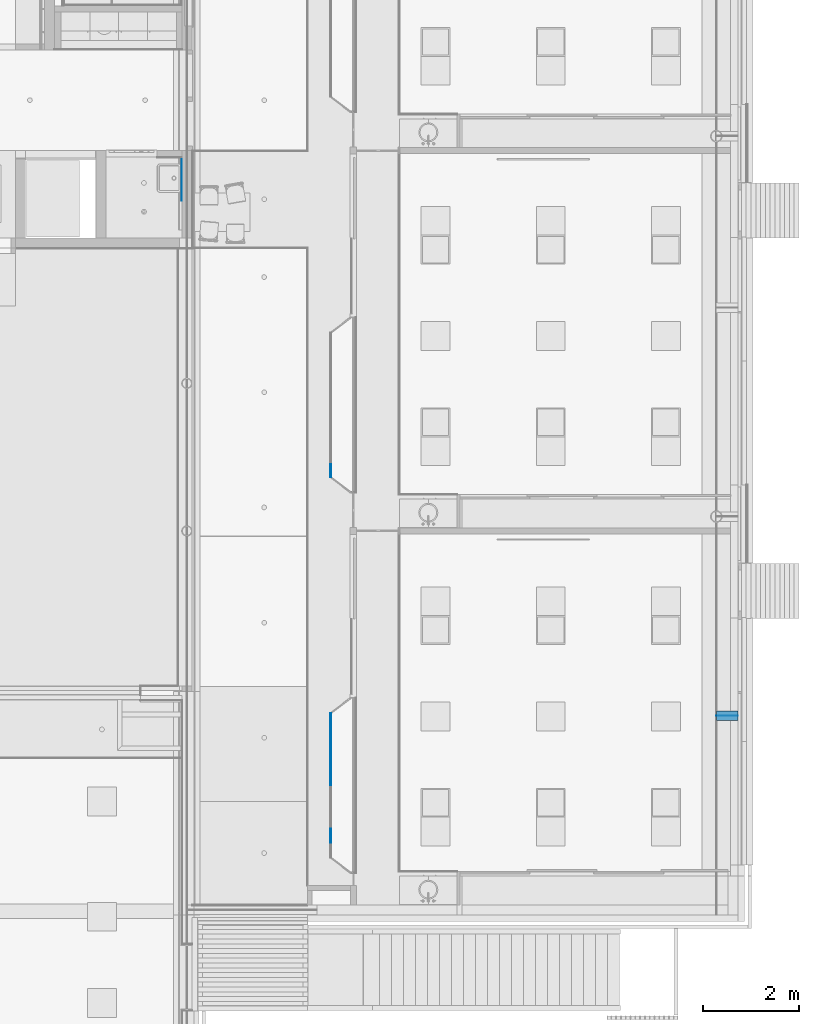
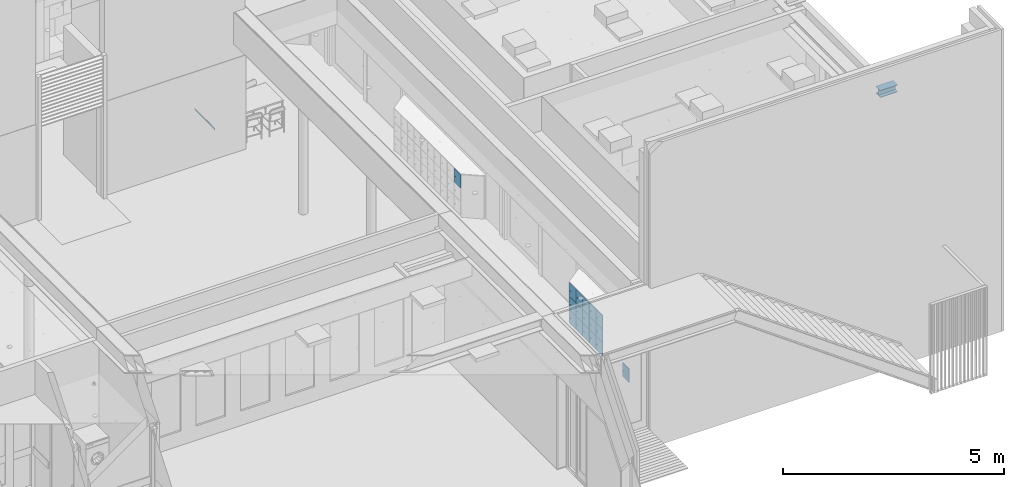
# One storey, part 135 of 347: 21 building element parts, 4 elements without a shape of their own.
"""IFC2X3 building model written with IfcOpenShell, lengths in millimetres."""

import ifcopenshell
import ifcopenshell.guid

model = None  # the IFC model being written
_history = None  # IfcOwnerHistory: only IFC2X3 demands one
_inside = {}  # id of a spatial element -> (the spatial element, [elements in it])
_under = {}  # id of a project, library or spatial element -> (it, [spatial elements below it])
_declared = {}  # id of a project -> (the project, [libraries it declares])
_typed = {}  # id of a type object -> (the type object, [elements of that type])
_made_of = {}  # id of a material, layer set ... -> (it, [elements and type objects made of it])


def new_model(schema):
    """Start an empty IFC model of exactly this schema.

    Asked for "IFC4X3", IfcOpenShell would pick the latest addendum, in which some entities
    have other attributes; the version numbers below select the first issue.
    IFC2X3 requires an IfcOwnerHistory on every rooted entity: one is made here for all.
    """
    global model, _history
    if schema == "IFC4X3":
        model = ifcopenshell.file(schema_version=(4, 3, 0, 0))
    else:
        model = ifcopenshell.file(schema=schema)
    _inside.clear()
    _under.clear()
    _declared.clear()
    _typed.clear()
    _made_of.clear()
    _history = None
    if model.schema == "IFC2X3":
        org = make("IfcOrganization", Name="unknown")
        user = make(
            "IfcPersonAndOrganization",
            ThePerson=make("IfcPerson", FamilyName="unknown"),
            TheOrganization=org,
        )
        app = make(
            "IfcApplication",
            ApplicationDeveloper=org,
            Version="unknown",
            ApplicationFullName="unknown",
            ApplicationIdentifier="unknown",
        )
        _history = make(
            "IfcOwnerHistory",
            OwningUser=user,
            OwningApplication=app,
            ChangeAction="ADDED",
            CreationDate=0,
        )
    return model


def make(cls, **values):
    """One entity of the class cls with the attributes given. An attribute that is None is left unset."""
    return model.create_entity(
        cls, **{name: value for name, value in values.items() if value is not None}
    )


def entity(cls, *values):
    """Any entity or typed value of the class cls, its attributes in the order of the schema. None: left unset."""
    e = model.create_entity(cls)
    for i, value in enumerate(values):
        if value is not None:
            e[i] = value
    return e


def rooted(cls, **values):
    """An entity with a GlobalId (a new one), such as an element, a storey or a relation."""
    return make(cls, GlobalId=ifcopenshell.guid.new(), OwnerHistory=_history, **values)


def si_unit(unit_type, name, prefix=None):
    """IfcSIUnit, for example si_unit("LENGTHUNIT", "METRE", prefix="MILLI")."""
    return make("IfcSIUnit", UnitType=unit_type, Prefix=prefix, Name=name)


def converted_unit(unit_type, name, factor, base, dimensions=None, offset=None):
    """IfcConversionBasedUnit, such as the inch: factor (a typed value) times the base unit."""
    return make(
        "IfcConversionBasedUnit"
        if offset is None
        else "IfcConversionBasedUnitWithOffset",
        ConversionOffset=offset,
        Dimensions=None
        if dimensions is None
        else entity("IfcDimensionalExponents", *dimensions),
        UnitType=unit_type,
        Name=name,
        ConversionFactor=make(
            "IfcMeasureWithUnit", ValueComponent=factor, UnitComponent=base
        ),
    )


def derived_unit(unit_type, elements):
    """IfcDerivedUnit: a product of units, each with its exponent."""
    return make(
        "IfcDerivedUnit",
        Elements=[
            make("IfcDerivedUnitElement", Unit=unit, Exponent=power)
            for unit, power in elements
        ],
        UnitType=unit_type,
    )


def money_unit(currency):
    """IfcMonetaryUnit."""
    return make("IfcMonetaryUnit", Currency=currency)


def assignment(units):
    """IfcUnitAssignment: the units of a project."""
    return None if units is None else make("IfcUnitAssignment", Units=units)


def point(xyz):
    """IfcCartesianPoint."""
    return None if xyz is None else make("IfcCartesianPoint", Coordinates=xyz)


def direction(xyz):
    """IfcDirection."""
    return None if xyz is None else make("IfcDirection", DirectionRatios=xyz)


def frame(location, z_axis=None, x_axis=None):
    """IfcAxis2Placement3D, a coordinate frame: its origin and axes. An axis left out is left unset."""
    return make(
        "IfcAxis2Placement3D",
        Location=point(location),
        Axis=direction(z_axis),
        RefDirection=direction(x_axis),
    )


def origin_with_axes():
    """The frame at (0, 0, 0) with the z axis (0, 0, 1) and the x axis (1, 0, 0) written out."""
    return frame((0.0, 0.0, 0.0), z_axis=(0.0, 0.0, 1.0), x_axis=(1.0, 0.0, 0.0))


def place(relative_to, where):
    """IfcLocalPlacement: puts the frame where relative to a parent placement (None: the world)."""
    return make(
        "IfcLocalPlacement", PlacementRelTo=relative_to, RelativePlacement=where
    )


def context(
    kind, dimensions, precision=None, world=None, true_north=None, identifier=None
):
    """IfcGeometricRepresentationContext, for example the 3D "Model" context."""
    return make(
        "IfcGeometricRepresentationContext",
        ContextIdentifier=identifier,
        ContextType=kind,
        CoordinateSpaceDimension=dimensions,
        Precision=precision,
        WorldCoordinateSystem=world,
        TrueNorth=true_north,
    )


def subcontext(parent, identifier, kind, view, scale=None):
    """IfcGeometricRepresentationSubContext, for example "Body" below "Model"."""
    return make(
        "IfcGeometricRepresentationSubContext",
        ContextIdentifier=identifier,
        ContextType=kind,
        ParentContext=parent,
        TargetScale=scale,
        TargetView=view,
    )


def project(units=None, contexts=None):
    """IfcProject with its units and contexts."""
    return rooted(
        "IfcProject",
        Name="project",
        RepresentationContexts=contexts,
        UnitsInContext=assignment(units),
    )


def spatial(cls, under=None, at=None, **own):
    """A site, building, storey or space (cls), placed at a placement, below another one or the project."""
    s = rooted(cls, ObjectPlacement=at, **own)
    if under is not None:
        _under.setdefault(under.id(), (under, []))[1].append(s)
    return s


def faces_of(points, faces, orient=None, outer=None):
    """IfcFace entities. A face is a list of loops; a loop is a list of indices into points, from 0.

    orient and outer hold one flag for each loop. By default every Orientation is true, the
    first loop of a face is its IfcFaceOuterBound and the others are IfcFaceBound.
    """
    made = []
    for i, loops in enumerate(faces):
        bounds = []
        for j, loop in enumerate(loops):
            is_outer = j == 0 if outer is None else outer[i][j]
            bounds.append(
                make(
                    "IfcFaceOuterBound" if is_outer else "IfcFaceBound",
                    Bound=make("IfcPolyLoop", Polygon=[points[k] for k in loop]),
                    Orientation=True if orient is None else orient[i][j],
                )
            )
        made.append(make("IfcFace", Bounds=bounds))
    return made


def faceted_brep(points, faces, orient=None, outer=None, voids=None):
    """IfcFacetedBrep: a solid bounded by flat faces; with voids (closed shells), ...WithVoids."""
    shared = [point(p) for p in points]
    hull = make("IfcClosedShell", CfsFaces=faces_of(shared, faces, orient, outer))
    if voids is None:
        return make("IfcFacetedBrep", Outer=hull)
    return make(
        "IfcFacetedBrepWithVoids",
        Outer=hull,
        Voids=[
            make(cls, CfsFaces=faces_of(shared, fs, o, b)) for cls, fs, o, b in voids
        ],
    )


def shape(context_of_items, identifier, shape_type, items):
    """IfcShapeRepresentation: the items that make up one representation, for example the "Body"."""
    return make(
        "IfcShapeRepresentation",
        ContextOfItems=context_of_items,
        RepresentationIdentifier=identifier,
        RepresentationType=shape_type,
        Items=items,
    )


def material(Name=None, Category=None):
    """IfcMaterial."""
    return make("IfcMaterial", Name=Name, Category=Category)


def made_of(thing, what):
    """Note that an element or type object is made of a material, layer set ...; save() writes the relation."""
    if what is not None:
        _made_of.setdefault(what.id(), (what, []))[1].append(thing)
    return thing


def type_object(cls, material=None, **own):
    """A type object (cls), such as IfcWallType, which elements share."""
    return made_of(rooted(cls, **own), material)


def element(
    cls,
    number,
    at=None,
    inside=None,
    cuts=None,
    type_object=None,
    material=None,
    context=None,
    identifier="Body",
    shape_type=None,
    held_by="IfcProductDefinitionShape",
    body=None,
    shapes=None,
    **own,
):
    """One element of the class cls, such as IfcWall. Its Tag is "e" and its number.

    at: its placement. inside: the storey or other place that contains it. cuts: it is an
    opening in that element (IfcRelVoidsElement). A single representation is given by context,
    identifier, shape_type and body (its items); several are given by shapes. held_by: the class
    of the entity that holds the representations. save() writes the other relations.
    """
    e = rooted(cls, Tag="e%d" % number, ObjectPlacement=at, **own)
    if body is not None:
        shapes = [shape(context, identifier, shape_type, body)]
    if shapes is not None:
        e.Representation = make(held_by, Representations=shapes)
    if inside is not None:
        _inside.setdefault(inside.id(), (inside, []))[1].append(e)
    if cuts is not None:
        rooted(
            "IfcRelVoidsElement", RelatingBuildingElement=cuts, RelatedOpeningElement=e
        )
    if type_object is not None:
        _typed.setdefault(type_object.id(), (type_object, []))[1].append(e)
    return made_of(e, material)


def aggregate(whole, parts):
    """IfcRelAggregates: a whole, such as a stair, and the parts it consists of."""
    return rooted("IfcRelAggregates", RelatingObject=whole, RelatedObjects=parts)


def save(model, path):
    """Write the relations noted so far, then the file.

    IfcRelAggregates (storeys below a building ...), IfcRelContainedInSpatialStructure (elements
    in a storey), IfcRelDefinesByType, IfcRelAssociatesMaterial and IfcRelDeclares: one each for
    every whole, place, type object, material and project.
    """
    for whole, parts in _under.values():
        aggregate(whole, parts)
    for where, things in _inside.values():
        rooted(
            "IfcRelContainedInSpatialStructure",
            RelatedElements=things,
            RelatingStructure=where,
        )
    for kind, things in _typed.values():
        rooted("IfcRelDefinesByType", RelatedObjects=things, RelatingType=kind)
    for what, things in _made_of.values():
        rooted("IfcRelAssociatesMaterial", RelatedObjects=things, RelatingMaterial=what)
    for by, libraries in _declared.values():
        rooted("IfcRelDeclares", RelatingContext=by, RelatedDefinitions=libraries)
    model.write(path)


model = new_model("IFC2X3")

# Units and contexts
model_context = context("Model", 3, precision=0.01, world=origin_with_axes(), true_north=direction((0.0, 1.0)))
plan_context = context("Plan", 3, precision=0.01, world=origin_with_axes(), true_north=direction((0.0, 1.0)))
body_context = subcontext(model_context, "Body", "Model", "MODEL_VIEW")
ifc_project = project(units=[si_unit("LENGTHUNIT", "METRE", prefix="MILLI"), si_unit("AREAUNIT", "SQUARE_METRE"), si_unit("VOLUMEUNIT", "CUBIC_METRE"), converted_unit("PLANEANGLEUNIT", "DEGREE", entity("IfcPlaneAngleMeasure", 0.0174532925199), si_unit("PLANEANGLEUNIT", "RADIAN"), dimensions=[0, 0, 0, 0, 0, 0, 0]), money_unit("EUR"), converted_unit("TIMEUNIT", "Year", entity("IfcTimeMeasure", 31556926.0), si_unit("TIMEUNIT", "SECOND"), dimensions=[0, 0, 1, 0, 0, 0, 0]), si_unit("MASSUNIT", "GRAM", prefix="KILO"), si_unit("THERMODYNAMICTEMPERATUREUNIT", "DEGREE_CELSIUS"), si_unit("LUMINOUSINTENSITYUNIT", "LUMEN"), si_unit("ENERGYUNIT", "JOULE", prefix="MEGA"), derived_unit("THERMALCONDUCTANCEUNIT", [(si_unit("POWERUNIT", "WATT"), 1), (si_unit("LENGTHUNIT", "METRE"), -1), (si_unit("THERMODYNAMICTEMPERATUREUNIT", "KELVIN"), -1)]), derived_unit("SPECIFICHEATCAPACITYUNIT", [(si_unit("ENERGYUNIT", "JOULE"), 1), (si_unit("MASSUNIT", "GRAM", prefix="KILO"), -1), (si_unit("THERMODYNAMICTEMPERATUREUNIT", "KELVIN"), -1)]), derived_unit("MASSDENSITYUNIT", [(si_unit("MASSUNIT", "GRAM", prefix="KILO"), 1), (si_unit("VOLUMEUNIT", "CUBIC_METRE"), -1)])], contexts=[model_context, plan_context])

# Site, building, storey
site_placement = place(None, origin_with_axes())
site = spatial("IfcSite", under=ifc_project, at=site_placement, Name="Site", CompositionType="ELEMENT")
building_placement = place(site_placement, origin_with_axes())
building = spatial("IfcBuilding", under=site, at=building_placement, Name="Naam gebouw", CompositionType="ELEMENT")
storey_placement = place(building_placement, origin_with_axes())
storey = spatial("IfcBuildingStorey", under=building, at=storey_placement, Name="begane grond", CompositionType="ELEMENT", Elevation=0.0)

# Proxy, building element part
building_element_proxy_type = type_object("IfcBuildingElementProxyType", Name="wandtegels 150x300 2600+ 10 x 2600", PredefinedType="NOTDEFINED")
proxy_placement = place(storey_placement, frame((44425.0, 27830.0, 0.0), z_axis=(0.0, 0.0, 1.0), x_axis=(0.0, -1.0, 0.0)))
proxy = element("IfcBuildingElementProxy", 1, at=proxy_placement, inside=storey, type_object=building_element_proxy_type, Name="42_52 wandtegels keramisch")
ifc_material_1 = material(Name="48 vloeivloer Bolidt")
building_element_part_1_placement = place(proxy_placement, origin_with_axes())
building_element_part_1 = element("IfcBuildingElementPart", 2, at=building_element_part_1_placement, material=ifc_material_1, Name="48 vloeivloer Bolidt", context=body_context, shape_type="Brep", body=[
    faceted_brep([(-8.00001490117, 10.0000089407, 0.0), (-8.00001490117, 10.0000089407, 50.0000059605), (900.0, 10.0000089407, 50.0000059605), (900.0, 10.0000089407, 0.0), (-8.00001490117, 8.00001490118, 50.0000059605), (-8.00001490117, 8.00001490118, 0.0), (900.0, 8.00001490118, 50.0000059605), (900.0, 8.00001490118, 0.0)], [[[0, 1, 2, 3]], [[4, 1, 0, 5]], [[1, 4, 6, 2]], [[6, 7, 3, 2]], [[5, 0, 3, 7]], [[4, 5, 7, 6]]]),
])
aggregate(proxy, [building_element_part_1])

# Beam, building element part
beam_type_1 = type_object("IfcBeamType", Name="VI Garderobe 01 3012 x 1122", PredefinedType="BEAM")
beam_1_placement = place(storey_placement, frame((47531.9720234, 24180.5, 0.0), z_axis=(0.0, 0.0, 1.0), x_axis=(0.0, -1.0, 0.0)))
beam_1 = element("IfcBeam", 3, at=beam_1_placement, inside=storey, type_object=beam_type_1, Name="28_Balk-x", ObjectType="BEAM")
ifc_material_2 = material(Name="Hout - Lockers")
building_element_part_2_placement = place(beam_1_placement, origin_with_axes())
building_element_part_2 = element("IfcBuildingElementPart", 4, at=building_element_part_2_placement, material=ifc_material_2, Name="Hout - Lockers", context=body_context, shape_type="Brep", body=[
    faceted_brep([(2709.0, 18.0, 1175.0), (2709.0, 18.0, 802.0), (2709.0, 0.0, 802.0), (2709.0, 0.0, 1175.0), (3012.0, 18.0, 1175.0), (3012.0, 18.0, 802.0), (2787.0, 18.0, 975.0), (2783.5623059, 18.0, 985.580134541), (2774.5623059, 18.0, 992.119017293), (2763.4376941, 18.0, 992.119017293), (2754.4376941, 18.0, 985.580134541), (2751.0, 18.0, 975.0), (2754.4376941, 18.0, 964.419865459), (2763.4376941, 18.0, 957.880982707), (2774.5623059, 18.0, 957.880982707), (2783.5623059, 18.0, 964.419865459), (3012.0, 0.0, 802.0), (3012.0, 0.0, 1175.0), (2787.0, 0.0, 975.0), (2783.5623059, 0.0, 964.419865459), (2774.5623059, 0.0, 957.880982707), (2763.4376941, 0.0, 957.880982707), (2754.4376941, 0.0, 964.419865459), (2751.0, 0.0, 975.0), (2754.4376941, 0.0, 985.580134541), (2763.4376941, 0.0, 992.119017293), (2774.5623059, 0.0, 992.119017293), (2783.5623059, 0.0, 985.580134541)], [[[0, 1, 2, 3]], [[0, 4, 5, 1], [6, 7, 8, 9, 10, 11, 12, 13, 14, 15]], [[1, 5, 16, 2]], [[3, 2, 16, 17], [18, 19, 20, 21, 22, 23, 24, 25, 26, 27]], [[4, 0, 3, 17]], [[5, 4, 17, 16]], [[7, 6, 18, 27]], [[8, 7, 27, 26]], [[9, 8, 26, 25]], [[10, 9, 25, 24]], [[11, 10, 24, 23]], [[12, 11, 23, 22]], [[13, 12, 22, 21]], [[14, 13, 21, 20]], [[15, 14, 20, 19]], [[6, 15, 19, 18]]]),
])
aggregate(beam_1, [building_element_part_2])

# Beam, building element parts
beam_2_placement = place(storey_placement, frame((47531.9720234, 16255.5, 0.0), z_axis=(0.0, 0.0, 1.0), x_axis=(0.0, -1.0, 0.0)))
beam_2 = element("IfcBeam", 5, at=beam_2_placement, inside=storey, type_object=beam_type_1, Name="28_Balk-x", ObjectType="BEAM")
building_element_part_3_placement = place(beam_2_placement, origin_with_axes())
building_element_part_3 = element("IfcBuildingElementPart", 6, at=building_element_part_3_placement, material=ifc_material_2, Name="Hout - Lockers", context=body_context, shape_type="Brep", body=[
    faceted_brep([(0.0, 18.0, 1175.0), (0.0, 18.0, 802.0), (0.0, 0.0, 802.0), (0.0, 0.0, 1175.0), (303.0, 18.0, 1175.0), (303.0, 18.0, 802.0), (76.2025761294, 18.0, 975.016154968), (72.7648820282, 18.0, 985.596289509), (63.7648820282, 18.0, 992.135172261), (52.6402702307, 18.0, 992.135172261), (43.6402702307, 18.0, 985.596289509), (40.2025761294, 18.0, 975.016154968), (43.6402702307, 18.0, 964.436020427), (52.6402702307, 18.0, 957.897137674), (63.7648820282, 18.0, 957.897137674), (72.7648820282, 18.0, 964.436020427), (303.0, 0.0, 802.0), (303.0, 0.0, 1175.0), (76.2025761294, 0.0, 975.016154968), (72.7648820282, 0.0, 964.436020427), (63.7648820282, 0.0, 957.897137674), (52.6402702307, 0.0, 957.897137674), (43.6402702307, 0.0, 964.436020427), (40.2025761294, 0.0, 975.016154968), (43.6402702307, 0.0, 985.596289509), (52.6402702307, 0.0, 992.135172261), (63.7648820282, 0.0, 992.135172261), (72.7648820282, 0.0, 985.596289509)], [[[0, 1, 2, 3]], [[0, 4, 5, 1], [6, 7, 8, 9, 10, 11, 12, 13, 14, 15]], [[1, 5, 16, 2]], [[3, 2, 16, 17], [18, 19, 20, 21, 22, 23, 24, 25, 26, 27]], [[4, 0, 3, 17]], [[5, 4, 17, 16]], [[7, 6, 18, 27]], [[8, 7, 27, 26]], [[9, 8, 26, 25]], [[10, 9, 25, 24]], [[11, 10, 24, 23]], [[12, 11, 23, 22]], [[13, 12, 22, 21]], [[14, 13, 21, 20]], [[15, 14, 20, 19]], [[6, 15, 19, 18]]]),
])
building_element_part_4_placement = place(beam_2_placement, origin_with_axes())
building_element_part_4 = element("IfcBuildingElementPart", 7, at=building_element_part_4_placement, material=ifc_material_2, Name="Hout - Lockers", context=body_context, shape_type="Brep", body=[
    faceted_brep([(0.0, 18.0, 796.0), (0.0, 18.0, 432.0), (0.0, 0.0, 432.0), (0.0, 0.0, 796.0), (303.0, 18.0, 796.0), (303.0, 18.0, 432.0), (44.5601698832, 18.0, 596.032777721), (47.9978639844, 18.0, 585.45264318), (56.9978639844, 18.0, 578.913760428), (68.1224757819, 18.0, 578.913760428), (77.1224757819, 18.0, 585.45264318), (80.5601698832, 18.0, 596.032777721), (77.1224757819, 18.0, 606.612912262), (68.1224757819, 18.0, 613.151795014), (56.9978639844, 18.0, 613.151795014), (47.9978639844, 18.0, 606.612912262), (303.0, 0.0, 432.0), (303.0, 0.0, 796.0), (44.5601698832, 0.0, 596.032777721), (47.9978639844, 0.0, 606.612912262), (56.9978639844, 0.0, 613.151795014), (68.1224757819, 0.0, 613.151795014), (77.1224757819, 0.0, 606.612912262), (80.5601698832, 0.0, 596.032777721), (77.1224757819, 0.0, 585.45264318), (68.1224757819, 0.0, 578.913760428), (56.9978639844, 0.0, 578.913760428), (47.9978639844, 0.0, 585.45264318)], [[[0, 1, 2, 3]], [[0, 4, 5, 1], [6, 7, 8, 9, 10, 11, 12, 13, 14, 15]], [[1, 5, 16, 2]], [[3, 2, 16, 17], [18, 19, 20, 21, 22, 23, 24, 25, 26, 27]], [[4, 0, 3, 17]], [[5, 4, 17, 16]], [[7, 6, 18, 27]], [[8, 7, 27, 26]], [[9, 8, 26, 25]], [[10, 9, 25, 24]], [[11, 10, 24, 23]], [[12, 11, 23, 22]], [[13, 12, 22, 21]], [[14, 13, 21, 20]], [[15, 14, 20, 19]], [[6, 15, 19, 18]]]),
])
building_element_part_5_placement = place(beam_2_placement, origin_with_axes())
building_element_part_5 = element("IfcBuildingElementPart", 8, at=building_element_part_5_placement, material=ifc_material_2, Name="Hout - Lockers", context=body_context, shape_type="Brep", body=[
    faceted_brep([(0.0, 18.0, 426.0), (0.0, 18.0, 53.0), (0.0, 0.0, 53.0), (0.0, 0.0, 426.0), (303.0, 18.0, 426.0), (303.0, 18.0, 53.0), (78.0, 18.0, 226.0), (74.5623058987, 18.0, 236.580134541), (65.5623058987, 18.0, 243.119017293), (54.4376941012, 18.0, 243.119017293), (45.4376941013, 18.0, 236.580134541), (42.0, 18.0, 226.0), (45.4376941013, 18.0, 215.419865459), (54.4376941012, 18.0, 208.880982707), (65.5623058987, 18.0, 208.880982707), (74.5623058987, 18.0, 215.419865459), (303.0, 0.0, 53.0), (303.0, 0.0, 426.0), (78.0, 0.0, 226.0), (74.5623058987, 0.0, 215.419865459), (65.5623058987, 0.0, 208.880982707), (54.4376941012, 0.0, 208.880982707), (45.4376941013, 0.0, 215.419865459), (42.0, 0.0, 226.0), (45.4376941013, 0.0, 236.580134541), (54.4376941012, 0.0, 243.119017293), (65.5623058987, 0.0, 243.119017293), (74.5623058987, 0.0, 236.580134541)], [[[0, 1, 2, 3]], [[0, 4, 5, 1], [6, 7, 8, 9, 10, 11, 12, 13, 14, 15]], [[1, 5, 16, 2]], [[3, 2, 16, 17], [18, 19, 20, 21, 22, 23, 24, 25, 26, 27]], [[4, 0, 3, 17]], [[5, 4, 17, 16]], [[7, 6, 18, 27]], [[8, 7, 27, 26]], [[9, 8, 26, 25]], [[10, 9, 25, 24]], [[11, 10, 24, 23]], [[12, 11, 23, 22]], [[13, 12, 22, 21]], [[14, 13, 21, 20]], [[15, 14, 20, 19]], [[6, 15, 19, 18]]]),
])
building_element_part_6_placement = place(beam_2_placement, origin_with_axes())
building_element_part_6 = element("IfcBuildingElementPart", 9, at=building_element_part_6_placement, material=ifc_material_2, Name="Hout - Lockers", context=body_context, shape_type="Brep", body=[
    faceted_brep([(1209.0, 18.0, 1175.0), (1209.0, 18.0, 802.0), (1209.0, 0.0, 802.0), (1209.0, 0.0, 1175.0), (1503.0, 18.0, 1175.0), (1503.0, 18.0, 802.0), (1287.0, 18.0, 975.0), (1283.5623059, 18.0, 985.580134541), (1274.5623059, 18.0, 992.119017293), (1263.4376941, 18.0, 992.119017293), (1254.4376941, 18.0, 985.580134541), (1251.0, 18.0, 975.0), (1254.4376941, 18.0, 964.419865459), (1263.4376941, 18.0, 957.880982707), (1274.5623059, 18.0, 957.880982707), (1283.5623059, 18.0, 964.419865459), (1503.0, 0.0, 802.0), (1503.0, 0.0, 1175.0), (1287.0, 0.0, 975.0), (1283.5623059, 0.0, 964.419865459), (1274.5623059, 0.0, 957.880982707), (1263.4376941, 0.0, 957.880982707), (1254.4376941, 0.0, 964.419865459), (1251.0, 0.0, 975.0), (1254.4376941, 0.0, 985.580134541), (1263.4376941, 0.0, 992.119017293), (1274.5623059, 0.0, 992.119017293), (1283.5623059, 0.0, 985.580134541)], [[[0, 1, 2, 3]], [[0, 4, 5, 1], [6, 7, 8, 9, 10, 11, 12, 13, 14, 15]], [[1, 5, 16, 2]], [[3, 2, 16, 17], [18, 19, 20, 21, 22, 23, 24, 25, 26, 27]], [[4, 0, 3, 17]], [[5, 4, 17, 16]], [[7, 6, 18, 27]], [[8, 7, 27, 26]], [[9, 8, 26, 25]], [[10, 9, 25, 24]], [[11, 10, 24, 23]], [[12, 11, 23, 22]], [[13, 12, 22, 21]], [[14, 13, 21, 20]], [[15, 14, 20, 19]], [[6, 15, 19, 18]]]),
])
building_element_part_7_placement = place(beam_2_placement, origin_with_axes())
building_element_part_7 = element("IfcBuildingElementPart", 10, at=building_element_part_7_placement, material=ifc_material_2, Name="Hout - Lockers", context=body_context, shape_type="Brep", body=[
    faceted_brep([(1209.0, 18.0, 796.0), (1209.0, 18.0, 432.0), (1209.0, 0.0, 432.0), (1209.0, 0.0, 796.0), (1503.0, 18.0, 796.0), (1503.0, 18.0, 432.0), (1287.0, 18.0, 596.0), (1283.5623059, 18.0, 606.580134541), (1274.5623059, 18.0, 613.119017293), (1263.4376941, 18.0, 613.119017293), (1254.4376941, 18.0, 606.580134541), (1251.0, 18.0, 596.0), (1254.4376941, 18.0, 585.419865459), (1263.4376941, 18.0, 578.880982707), (1274.5623059, 18.0, 578.880982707), (1283.5623059, 18.0, 585.419865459), (1503.0, 0.0, 432.0), (1503.0, 0.0, 796.0), (1287.0, 0.0, 596.0), (1283.5623059, 0.0, 585.419865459), (1274.5623059, 0.0, 578.880982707), (1263.4376941, 0.0, 578.880982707), (1254.4376941, 0.0, 585.419865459), (1251.0, 0.0, 596.0), (1254.4376941, 0.0, 606.580134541), (1263.4376941, 0.0, 613.119017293), (1274.5623059, 0.0, 613.119017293), (1283.5623059, 0.0, 606.580134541)], [[[0, 1, 2, 3]], [[0, 4, 5, 1], [6, 7, 8, 9, 10, 11, 12, 13, 14, 15]], [[1, 5, 16, 2]], [[3, 2, 16, 17], [18, 19, 20, 21, 22, 23, 24, 25, 26, 27]], [[4, 0, 3, 17]], [[5, 4, 17, 16]], [[7, 6, 18, 27]], [[8, 7, 27, 26]], [[9, 8, 26, 25]], [[10, 9, 25, 24]], [[11, 10, 24, 23]], [[12, 11, 23, 22]], [[13, 12, 22, 21]], [[14, 13, 21, 20]], [[15, 14, 20, 19]], [[6, 15, 19, 18]]]),
])
building_element_part_8_placement = place(beam_2_placement, origin_with_axes())
building_element_part_8 = element("IfcBuildingElementPart", 11, at=building_element_part_8_placement, material=ifc_material_2, Name="Hout - Lockers", context=body_context, shape_type="Brep", body=[
    faceted_brep([(1209.0, 18.0, 426.0), (1209.0, 18.0, 53.0), (1209.0, 0.0, 53.0), (1209.0, 0.0, 426.0), (1503.0, 18.0, 426.0), (1503.0, 18.0, 53.0), (1287.0, 18.0, 226.0), (1283.5623059, 18.0, 236.580134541), (1274.5623059, 18.0, 243.119017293), (1263.4376941, 18.0, 243.119017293), (1254.4376941, 18.0, 236.580134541), (1251.0, 18.0, 226.0), (1254.4376941, 18.0, 215.419865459), (1263.4376941, 18.0, 208.880982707), (1274.5623059, 18.0, 208.880982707), (1283.5623059, 18.0, 215.419865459), (1503.0, 0.0, 53.0), (1503.0, 0.0, 426.0), (1287.0, 0.0, 226.0), (1283.5623059, 0.0, 215.419865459), (1274.5623059, 0.0, 208.880982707), (1263.4376941, 0.0, 208.880982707), (1254.4376941, 0.0, 215.419865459), (1251.0, 0.0, 226.0), (1254.4376941, 0.0, 236.580134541), (1263.4376941, 0.0, 243.119017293), (1274.5623059, 0.0, 243.119017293), (1283.5623059, 0.0, 236.580134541)], [[[0, 1, 2, 3]], [[0, 4, 5, 1], [6, 7, 8, 9, 10, 11, 12, 13, 14, 15]], [[1, 5, 16, 2]], [[3, 2, 16, 17], [18, 19, 20, 21, 22, 23, 24, 25, 26, 27]], [[4, 0, 3, 17]], [[5, 4, 17, 16]], [[7, 6, 18, 27]], [[8, 7, 27, 26]], [[9, 8, 26, 25]], [[10, 9, 25, 24]], [[11, 10, 24, 23]], [[12, 11, 23, 22]], [[13, 12, 22, 21]], [[14, 13, 21, 20]], [[15, 14, 20, 19]], [[6, 15, 19, 18]]]),
])
building_element_part_9_placement = place(beam_2_placement, origin_with_axes())
building_element_part_9 = element("IfcBuildingElementPart", 12, at=building_element_part_9_placement, material=ifc_material_2, Name="Hout - Lockers", context=body_context, shape_type="Brep", body=[
    faceted_brep([(309.0, 18.0, 1175.0), (309.0, 18.0, 802.0), (309.0, 0.0, 802.0), (309.0, 0.0, 1175.0), (603.0, 18.0, 1175.0), (603.0, 18.0, 802.0), (387.0, 18.0, 975.0), (383.562305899, 18.0, 985.580134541), (374.562305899, 18.0, 992.119017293), (363.437694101, 18.0, 992.119017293), (354.437694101, 18.0, 985.580134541), (351.0, 18.0, 975.0), (354.437694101, 18.0, 964.419865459), (363.437694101, 18.0, 957.880982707), (374.562305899, 18.0, 957.880982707), (383.562305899, 18.0, 964.419865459), (603.0, 0.0, 802.0), (603.0, 0.0, 1175.0), (387.0, 0.0, 975.0), (383.562305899, 0.0, 964.419865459), (374.562305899, 0.0, 957.880982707), (363.437694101, 0.0, 957.880982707), (354.437694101, 0.0, 964.419865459), (351.0, 0.0, 975.0), (354.437694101, 0.0, 985.580134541), (363.437694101, 0.0, 992.119017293), (374.562305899, 0.0, 992.119017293), (383.562305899, 0.0, 985.580134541)], [[[0, 1, 2, 3]], [[0, 4, 5, 1], [6, 7, 8, 9, 10, 11, 12, 13, 14, 15]], [[1, 5, 16, 2]], [[3, 2, 16, 17], [18, 19, 20, 21, 22, 23, 24, 25, 26, 27]], [[4, 0, 3, 17]], [[5, 4, 17, 16]], [[7, 6, 18, 27]], [[8, 7, 27, 26]], [[9, 8, 26, 25]], [[10, 9, 25, 24]], [[11, 10, 24, 23]], [[12, 11, 23, 22]], [[13, 12, 22, 21]], [[14, 13, 21, 20]], [[15, 14, 20, 19]], [[6, 15, 19, 18]]]),
])
building_element_part_10_placement = place(beam_2_placement, origin_with_axes())
building_element_part_10 = element("IfcBuildingElementPart", 13, at=building_element_part_10_placement, material=ifc_material_2, Name="Hout - Lockers", context=body_context, shape_type="Brep", body=[
    faceted_brep([(309.0, 18.0, 796.0), (309.0, 18.0, 432.0), (309.0, 0.0, 432.0), (309.0, 0.0, 796.0), (603.0, 18.0, 796.0), (603.0, 18.0, 432.0), (387.0, 18.0, 596.0), (383.562305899, 18.0, 606.580134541), (374.562305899, 18.0, 613.119017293), (363.437694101, 18.0, 613.119017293), (354.437694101, 18.0, 606.580134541), (351.0, 18.0, 596.0), (354.437694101, 18.0, 585.419865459), (363.437694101, 18.0, 578.880982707), (374.562305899, 18.0, 578.880982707), (383.562305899, 18.0, 585.419865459), (603.0, 0.0, 432.0), (603.0, 0.0, 796.0), (387.0, 0.0, 596.0), (383.562305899, 0.0, 585.419865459), (374.562305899, 0.0, 578.880982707), (363.437694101, 0.0, 578.880982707), (354.437694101, 0.0, 585.419865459), (351.0, 0.0, 596.0), (354.437694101, 0.0, 606.580134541), (363.437694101, 0.0, 613.119017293), (374.562305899, 0.0, 613.119017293), (383.562305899, 0.0, 606.580134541)], [[[0, 1, 2, 3]], [[0, 4, 5, 1], [6, 7, 8, 9, 10, 11, 12, 13, 14, 15]], [[1, 5, 16, 2]], [[3, 2, 16, 17], [18, 19, 20, 21, 22, 23, 24, 25, 26, 27]], [[4, 0, 3, 17]], [[5, 4, 17, 16]], [[7, 6, 18, 27]], [[8, 7, 27, 26]], [[9, 8, 26, 25]], [[10, 9, 25, 24]], [[11, 10, 24, 23]], [[12, 11, 23, 22]], [[13, 12, 22, 21]], [[14, 13, 21, 20]], [[15, 14, 20, 19]], [[6, 15, 19, 18]]]),
])
building_element_part_11_placement = place(beam_2_placement, origin_with_axes())
building_element_part_11 = element("IfcBuildingElementPart", 14, at=building_element_part_11_placement, material=ifc_material_2, Name="Hout - Lockers", context=body_context, shape_type="Brep", body=[
    faceted_brep([(309.0, 18.0, 426.0), (309.0, 18.0, 53.0), (309.0, 0.0, 53.0), (309.0, 0.0, 426.0), (603.0, 18.0, 426.0), (603.0, 18.0, 53.0), (387.0, 18.0, 226.0), (383.562305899, 18.0, 236.580134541), (374.562305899, 18.0, 243.119017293), (363.437694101, 18.0, 243.119017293), (354.437694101, 18.0, 236.580134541), (351.0, 18.0, 226.0), (354.437694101, 18.0, 215.419865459), (363.437694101, 18.0, 208.880982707), (374.562305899, 18.0, 208.880982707), (383.562305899, 18.0, 215.419865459), (603.0, 0.0, 53.0), (603.0, 0.0, 426.0), (387.0, 0.0, 226.0), (383.562305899, 0.0, 215.419865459), (374.562305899, 0.0, 208.880982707), (363.437694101, 0.0, 208.880982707), (354.437694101, 0.0, 215.419865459), (351.0, 0.0, 226.0), (354.437694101, 0.0, 236.580134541), (363.437694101, 0.0, 243.119017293), (374.562305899, 0.0, 243.119017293), (383.562305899, 0.0, 236.580134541)], [[[0, 1, 2, 3]], [[0, 4, 5, 1], [6, 7, 8, 9, 10, 11, 12, 13, 14, 15]], [[1, 5, 16, 2]], [[3, 2, 16, 17], [18, 19, 20, 21, 22, 23, 24, 25, 26, 27]], [[4, 0, 3, 17]], [[5, 4, 17, 16]], [[7, 6, 18, 27]], [[8, 7, 27, 26]], [[9, 8, 26, 25]], [[10, 9, 25, 24]], [[11, 10, 24, 23]], [[12, 11, 23, 22]], [[13, 12, 22, 21]], [[14, 13, 21, 20]], [[15, 14, 20, 19]], [[6, 15, 19, 18]]]),
])
building_element_part_12_placement = place(beam_2_placement, origin_with_axes())
building_element_part_12 = element("IfcBuildingElementPart", 15, at=building_element_part_12_placement, material=ifc_material_2, Name="Hout - Lockers", context=body_context, shape_type="Brep", body=[
    faceted_brep([(909.0, 18.0, 1175.0), (909.0, 18.0, 802.0), (909.0, 0.0, 802.0), (909.0, 0.0, 1175.0), (1203.0, 18.0, 1175.0), (1203.0, 18.0, 802.0), (987.0, 18.0, 975.0), (983.562305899, 18.0, 985.580134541), (974.562305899, 18.0, 992.119017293), (963.437694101, 18.0, 992.119017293), (954.437694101, 18.0, 985.580134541), (951.0, 18.0, 975.0), (954.437694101, 18.0, 964.419865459), (963.437694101, 18.0, 957.880982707), (974.562305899, 18.0, 957.880982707), (983.562305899, 18.0, 964.419865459), (1203.0, 0.0, 802.0), (1203.0, 0.0, 1175.0), (987.0, 0.0, 975.0), (983.562305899, 0.0, 964.419865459), (974.562305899, 0.0, 957.880982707), (963.437694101, 0.0, 957.880982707), (954.437694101, 0.0, 964.419865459), (951.0, 0.0, 975.0), (954.437694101, 0.0, 985.580134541), (963.437694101, 0.0, 992.119017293), (974.562305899, 0.0, 992.119017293), (983.562305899, 0.0, 985.580134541)], [[[0, 1, 2, 3]], [[0, 4, 5, 1], [6, 7, 8, 9, 10, 11, 12, 13, 14, 15]], [[1, 5, 16, 2]], [[3, 2, 16, 17], [18, 19, 20, 21, 22, 23, 24, 25, 26, 27]], [[4, 0, 3, 17]], [[5, 4, 17, 16]], [[7, 6, 18, 27]], [[8, 7, 27, 26]], [[9, 8, 26, 25]], [[10, 9, 25, 24]], [[11, 10, 24, 23]], [[12, 11, 23, 22]], [[13, 12, 22, 21]], [[14, 13, 21, 20]], [[15, 14, 20, 19]], [[6, 15, 19, 18]]]),
])
building_element_part_13_placement = place(beam_2_placement, origin_with_axes())
building_element_part_13 = element("IfcBuildingElementPart", 16, at=building_element_part_13_placement, material=ifc_material_2, Name="Hout - Lockers", context=body_context, shape_type="Brep", body=[
    faceted_brep([(909.0, 18.0, 796.0), (909.0, 18.0, 432.0), (909.0, 0.0, 432.0), (909.0, 0.0, 796.0), (1203.0, 18.0, 796.0), (1203.0, 18.0, 432.0), (987.0, 18.0, 596.0), (983.562305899, 18.0, 606.580134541), (974.562305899, 18.0, 613.119017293), (963.437694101, 18.0, 613.119017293), (954.437694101, 18.0, 606.580134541), (951.0, 18.0, 596.0), (954.437694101, 18.0, 585.419865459), (963.437694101, 18.0, 578.880982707), (974.562305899, 18.0, 578.880982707), (983.562305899, 18.0, 585.419865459), (1203.0, 0.0, 432.0), (1203.0, 0.0, 796.0), (987.0, 0.0, 596.0), (983.562305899, 0.0, 585.419865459), (974.562305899, 0.0, 578.880982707), (963.437694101, 0.0, 578.880982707), (954.437694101, 0.0, 585.419865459), (951.0, 0.0, 596.0), (954.437694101, 0.0, 606.580134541), (963.437694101, 0.0, 613.119017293), (974.562305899, 0.0, 613.119017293), (983.562305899, 0.0, 606.580134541)], [[[0, 1, 2, 3]], [[0, 4, 5, 1], [6, 7, 8, 9, 10, 11, 12, 13, 14, 15]], [[1, 5, 16, 2]], [[3, 2, 16, 17], [18, 19, 20, 21, 22, 23, 24, 25, 26, 27]], [[4, 0, 3, 17]], [[5, 4, 17, 16]], [[7, 6, 18, 27]], [[8, 7, 27, 26]], [[9, 8, 26, 25]], [[10, 9, 25, 24]], [[11, 10, 24, 23]], [[12, 11, 23, 22]], [[13, 12, 22, 21]], [[14, 13, 21, 20]], [[15, 14, 20, 19]], [[6, 15, 19, 18]]]),
])
building_element_part_14_placement = place(beam_2_placement, origin_with_axes())
building_element_part_14 = element("IfcBuildingElementPart", 17, at=building_element_part_14_placement, material=ifc_material_2, Name="Hout - Lockers", context=body_context, shape_type="Brep", body=[
    faceted_brep([(909.0, 18.0, 426.0), (909.0, 18.0, 53.0), (909.0, 0.0, 53.0), (909.0, 0.0, 426.0), (1203.0, 18.0, 426.0), (1203.0, 18.0, 53.0), (987.0, 18.0, 226.0), (983.562305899, 18.0, 236.580134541), (974.562305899, 18.0, 243.119017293), (963.437694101, 18.0, 243.119017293), (954.437694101, 18.0, 236.580134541), (951.0, 18.0, 226.0), (954.437694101, 18.0, 215.419865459), (963.437694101, 18.0, 208.880982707), (974.562305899, 18.0, 208.880982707), (983.562305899, 18.0, 215.419865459), (1203.0, 0.0, 53.0), (1203.0, 0.0, 426.0), (987.0, 0.0, 226.0), (983.562305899, 0.0, 215.419865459), (974.562305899, 0.0, 208.880982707), (963.437694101, 0.0, 208.880982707), (954.437694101, 0.0, 215.419865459), (951.0, 0.0, 226.0), (954.437694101, 0.0, 236.580134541), (963.437694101, 0.0, 243.119017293), (974.562305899, 0.0, 243.119017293), (983.562305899, 0.0, 236.580134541)], [[[0, 1, 2, 3]], [[0, 4, 5, 1], [6, 7, 8, 9, 10, 11, 12, 13, 14, 15]], [[1, 5, 16, 2]], [[3, 2, 16, 17], [18, 19, 20, 21, 22, 23, 24, 25, 26, 27]], [[4, 0, 3, 17]], [[5, 4, 17, 16]], [[7, 6, 18, 27]], [[8, 7, 27, 26]], [[9, 8, 26, 25]], [[10, 9, 25, 24]], [[11, 10, 24, 23]], [[12, 11, 23, 22]], [[13, 12, 22, 21]], [[14, 13, 21, 20]], [[15, 14, 20, 19]], [[6, 15, 19, 18]]]),
])
building_element_part_15_placement = place(beam_2_placement, origin_with_axes())
building_element_part_15 = element("IfcBuildingElementPart", 18, at=building_element_part_15_placement, material=ifc_material_2, Name="Hout - Lockers", context=body_context, shape_type="Brep", body=[
    faceted_brep([(609.0, 18.0, 1175.0), (609.0, 18.0, 802.0), (609.0, 0.0, 802.0), (609.0, 0.0, 1175.0), (903.0, 18.0, 1175.0), (903.0, 18.0, 802.0), (687.0, 18.0, 975.0), (683.562305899, 18.0, 985.580134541), (674.562305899, 18.0, 992.119017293), (663.437694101, 18.0, 992.119017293), (654.437694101, 18.0, 985.580134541), (651.0, 18.0, 975.0), (654.437694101, 18.0, 964.419865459), (663.437694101, 18.0, 957.880982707), (674.562305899, 18.0, 957.880982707), (683.562305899, 18.0, 964.419865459), (903.0, 0.0, 802.0), (903.0, 0.0, 1175.0), (687.0, 0.0, 975.0), (683.562305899, 0.0, 964.419865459), (674.562305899, 0.0, 957.880982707), (663.437694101, 0.0, 957.880982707), (654.437694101, 0.0, 964.419865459), (651.0, 0.0, 975.0), (654.437694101, 0.0, 985.580134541), (663.437694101, 0.0, 992.119017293), (674.562305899, 0.0, 992.119017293), (683.562305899, 0.0, 985.580134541)], [[[0, 1, 2, 3]], [[0, 4, 5, 1], [6, 7, 8, 9, 10, 11, 12, 13, 14, 15]], [[1, 5, 16, 2]], [[3, 2, 16, 17], [18, 19, 20, 21, 22, 23, 24, 25, 26, 27]], [[4, 0, 3, 17]], [[5, 4, 17, 16]], [[7, 6, 18, 27]], [[8, 7, 27, 26]], [[9, 8, 26, 25]], [[10, 9, 25, 24]], [[11, 10, 24, 23]], [[12, 11, 23, 22]], [[13, 12, 22, 21]], [[14, 13, 21, 20]], [[15, 14, 20, 19]], [[6, 15, 19, 18]]]),
])
building_element_part_16_placement = place(beam_2_placement, origin_with_axes())
building_element_part_16 = element("IfcBuildingElementPart", 19, at=building_element_part_16_placement, material=ifc_material_2, Name="Hout - Lockers", context=body_context, shape_type="Brep", body=[
    faceted_brep([(609.0, 18.0, 796.0), (609.0, 18.0, 432.0), (609.0, 0.0, 432.0), (609.0, 0.0, 796.0), (903.0, 18.0, 796.0), (903.0, 18.0, 432.0), (687.0, 18.0, 596.0), (683.562305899, 18.0, 606.580134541), (674.562305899, 18.0, 613.119017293), (663.437694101, 18.0, 613.119017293), (654.437694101, 18.0, 606.580134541), (651.0, 18.0, 596.0), (654.437694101, 18.0, 585.419865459), (663.437694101, 18.0, 578.880982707), (674.562305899, 18.0, 578.880982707), (683.562305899, 18.0, 585.419865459), (903.0, 0.0, 432.0), (903.0, 0.0, 796.0), (687.0, 0.0, 596.0), (683.562305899, 0.0, 585.419865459), (674.562305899, 0.0, 578.880982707), (663.437694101, 0.0, 578.880982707), (654.437694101, 0.0, 585.419865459), (651.0, 0.0, 596.0), (654.437694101, 0.0, 606.580134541), (663.437694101, 0.0, 613.119017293), (674.562305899, 0.0, 613.119017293), (683.562305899, 0.0, 606.580134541)], [[[0, 1, 2, 3]], [[0, 4, 5, 1], [6, 7, 8, 9, 10, 11, 12, 13, 14, 15]], [[1, 5, 16, 2]], [[3, 2, 16, 17], [18, 19, 20, 21, 22, 23, 24, 25, 26, 27]], [[4, 0, 3, 17]], [[5, 4, 17, 16]], [[7, 6, 18, 27]], [[8, 7, 27, 26]], [[9, 8, 26, 25]], [[10, 9, 25, 24]], [[11, 10, 24, 23]], [[12, 11, 23, 22]], [[13, 12, 22, 21]], [[14, 13, 21, 20]], [[15, 14, 20, 19]], [[6, 15, 19, 18]]]),
])
building_element_part_17_placement = place(beam_2_placement, origin_with_axes())
building_element_part_17 = element("IfcBuildingElementPart", 20, at=building_element_part_17_placement, material=ifc_material_2, Name="Hout - Lockers", context=body_context, shape_type="Brep", body=[
    faceted_brep([(609.0, 18.0, 426.0), (609.0, 18.0, 53.0), (609.0, 0.0, 53.0), (609.0, 0.0, 426.0), (903.0, 18.0, 426.0), (903.0, 18.0, 53.0), (687.0, 18.0, 226.0), (683.562305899, 18.0, 236.580134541), (674.562305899, 18.0, 243.119017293), (663.437694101, 18.0, 243.119017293), (654.437694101, 18.0, 236.580134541), (651.0, 18.0, 226.0), (654.437694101, 18.0, 215.419865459), (663.437694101, 18.0, 208.880982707), (674.562305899, 18.0, 208.880982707), (683.562305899, 18.0, 215.419865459), (903.0, 0.0, 53.0), (903.0, 0.0, 426.0), (687.0, 0.0, 226.0), (683.562305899, 0.0, 215.419865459), (674.562305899, 0.0, 208.880982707), (663.437694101, 0.0, 208.880982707), (654.437694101, 0.0, 215.419865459), (651.0, 0.0, 226.0), (654.437694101, 0.0, 236.580134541), (663.437694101, 0.0, 243.119017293), (674.562305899, 0.0, 243.119017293), (683.562305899, 0.0, 236.580134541)], [[[0, 1, 2, 3]], [[0, 4, 5, 1], [6, 7, 8, 9, 10, 11, 12, 13, 14, 15]], [[1, 5, 16, 2]], [[3, 2, 16, 17], [18, 19, 20, 21, 22, 23, 24, 25, 26, 27]], [[4, 0, 3, 17]], [[5, 4, 17, 16]], [[7, 6, 18, 27]], [[8, 7, 27, 26]], [[9, 8, 26, 25]], [[10, 9, 25, 24]], [[11, 10, 24, 23]], [[12, 11, 23, 22]], [[13, 12, 22, 21]], [[14, 13, 21, 20]], [[15, 14, 20, 19]], [[6, 15, 19, 18]]]),
])
building_element_part_18_placement = place(beam_2_placement, origin_with_axes())
building_element_part_18 = element("IfcBuildingElementPart", 21, at=building_element_part_18_placement, material=ifc_material_2, Name="Hout - Lockers", context=body_context, shape_type="Brep", body=[
    faceted_brep([(2409.0, 18.0, 426.0), (2409.0, 18.0, 53.0), (2409.0, 0.0, 53.0), (2409.0, 0.0, 426.0), (2703.0, 18.0, 426.0), (2703.0, 18.0, 53.0), (2487.0, 18.0, 226.0), (2483.5623059, 18.0, 236.580134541), (2474.5623059, 18.0, 243.119017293), (2463.4376941, 18.0, 243.119017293), (2454.4376941, 18.0, 236.580134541), (2451.0, 18.0, 226.0), (2454.4376941, 18.0, 215.419865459), (2463.4376941, 18.0, 208.880982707), (2474.5623059, 18.0, 208.880982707), (2483.5623059, 18.0, 215.419865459), (2703.0, 0.0, 53.0), (2703.0, 0.0, 426.0), (2487.0, 0.0, 226.0), (2483.5623059, 0.0, 215.419865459), (2474.5623059, 0.0, 208.880982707), (2463.4376941, 0.0, 208.880982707), (2454.4376941, 0.0, 215.419865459), (2451.0, 0.0, 226.0), (2454.4376941, 0.0, 236.580134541), (2463.4376941, 0.0, 243.119017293), (2474.5623059, 0.0, 243.119017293), (2483.5623059, 0.0, 236.580134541)], [[[0, 1, 2, 3]], [[0, 4, 5, 1], [6, 7, 8, 9, 10, 11, 12, 13, 14, 15]], [[1, 5, 16, 2]], [[3, 2, 16, 17], [18, 19, 20, 21, 22, 23, 24, 25, 26, 27]], [[4, 0, 3, 17]], [[5, 4, 17, 16]], [[7, 6, 18, 27]], [[8, 7, 27, 26]], [[9, 8, 26, 25]], [[10, 9, 25, 24]], [[11, 10, 24, 23]], [[12, 11, 23, 22]], [[13, 12, 22, 21]], [[14, 13, 21, 20]], [[15, 14, 20, 19]], [[6, 15, 19, 18]]]),
])
aggregate(beam_2, [building_element_part_3, building_element_part_4, building_element_part_5, building_element_part_6, building_element_part_7, building_element_part_8, building_element_part_9, building_element_part_10, building_element_part_11, building_element_part_12, building_element_part_13, building_element_part_14, building_element_part_15, building_element_part_16, building_element_part_17, building_element_part_18])

beam_type_2 = type_object("IfcBeamType", Name="28 HEB200 200 x 200", PredefinedType="BEAM")
beam_3_placement = place(storey_placement, frame((55574.9999998, 16200.0, 3560.0), z_axis=(0.0, 0.0, 1.0), x_axis=(0.0, -1.0, 0.0)))
beam_3 = element("IfcBeam", 22, at=beam_3_placement, inside=storey, type_object=beam_type_2, Name="28_Balk-x", ObjectType="BEAM")
ifc_material_3 = material(Name="Metaal - Staal C")
building_element_part_19_placement = place(beam_3_placement, origin_with_axes())
building_element_part_19 = element("IfcBuildingElementPart", 23, at=building_element_part_19_placement, material=ifc_material_3, Name="Metaal - Staal C", context=body_context, shape_type="Brep", body=[
    faceted_brep([(-100.0, 449.999999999, 185.0), (-4.5, 449.999999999, 185.0), (-4.5, 0.0, 185.0), (-100.0, 0.0, 185.0), (-100.0, 449.999999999, 200.0), (100.0, 449.999999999, 200.0), (100.0, 449.999999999, 185.0), (4.5, 449.999999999, 185.0), (4.5, 0.0, 185.0), (100.0, 0.0, 185.0), (100.0, 0.0, 200.0), (-100.0, 0.0, 200.0)], [[[0, 1, 2, 3]], [[0, 4, 5, 6, 7, 1]], [[1, 7, 8, 2]], [[3, 2, 8, 9, 10, 11]], [[4, 0, 3, 11]], [[5, 4, 11, 10]], [[6, 5, 10, 9]], [[7, 6, 9, 8]]]),
])
building_element_part_20_placement = place(beam_3_placement, origin_with_axes())
building_element_part_20 = element("IfcBuildingElementPart", 24, at=building_element_part_20_placement, material=ifc_material_3, Name="Metaal - Staal C", context=body_context, shape_type="Brep", body=[
    faceted_brep([(-100.0, 449.999999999, 15.0), (-100.0, 449.999999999, 0.0), (-100.0, 0.0, 0.0), (-100.0, 0.0, 15.0), (-4.5, 449.999999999, 15.0), (4.5, 449.999999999, 15.0), (100.0, 449.999999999, 15.0), (100.0, 449.999999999, 0.0), (100.0, 0.0, 0.0), (100.0, 0.0, 15.0), (4.5, 0.0, 15.0), (-4.5, 0.0, 15.0)], [[[0, 1, 2, 3]], [[0, 4, 5, 6, 7, 1]], [[1, 7, 8, 2]], [[3, 2, 8, 9, 10, 11]], [[4, 0, 3, 11]], [[5, 4, 11, 10]], [[6, 5, 10, 9]], [[7, 6, 9, 8]]]),
])
building_element_part_21_placement = place(beam_3_placement, origin_with_axes())
building_element_part_21 = element("IfcBuildingElementPart", 25, at=building_element_part_21_placement, material=ifc_material_3, Name="Metaal - Staal C", context=body_context, shape_type="Brep", body=[
    faceted_brep([(-4.5, 449.999999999, 15.0), (4.5, 449.999999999, 15.0), (4.5, 0.0, 15.0), (-4.5, 0.0, 15.0), (-4.5, 449.999999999, 185.0), (4.5, 449.999999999, 185.0), (4.5, 0.0, 185.0), (-4.5, 0.0, 185.0)], [[[0, 1, 2, 3]], [[0, 4, 5, 1]], [[1, 5, 6, 2]], [[3, 2, 6, 7]], [[4, 0, 3, 7]], [[5, 4, 7, 6]]]),
])
aggregate(beam_3, [building_element_part_19, building_element_part_20, building_element_part_21])

save(model, "model.ifc")
